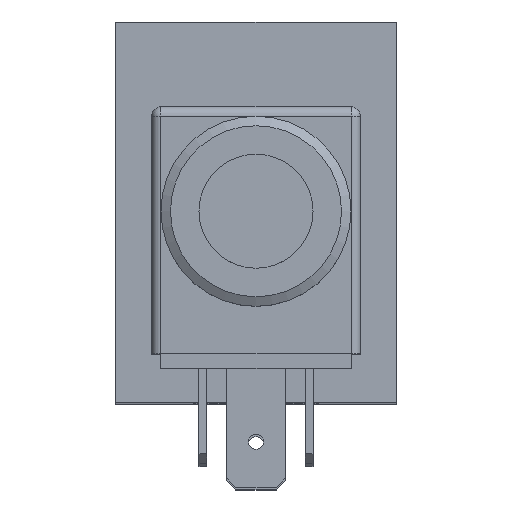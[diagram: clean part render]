
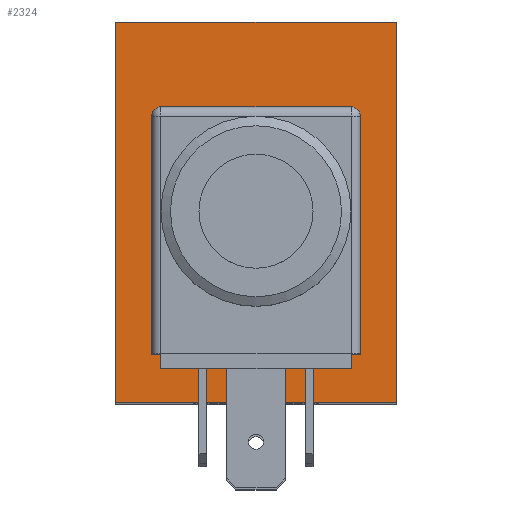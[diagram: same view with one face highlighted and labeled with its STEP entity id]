
A CAD part, top view. The second image highlights one B-rep face of the part: STEP entity #2324.
In plain terms, the highlighted planar face has unit normal (0, 0, 1).
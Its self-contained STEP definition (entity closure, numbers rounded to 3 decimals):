
#31=LINE('',#3536,#202);
#36=LINE('',#3549,#207);
#40=LINE('',#3561,#211);
#44=LINE('',#3573,#215);
#46=LINE('',#3583,#217);
#51=LINE('',#3592,#222);
#55=LINE('',#3600,#226);
#56=LINE('',#3602,#227);
#202=VECTOR('',#2867,15.);
#207=VECTOR('',#2880,15.);
#211=VECTOR('',#2892,15.);
#215=VECTOR('',#2904,15.);
#217=VECTOR('',#2916,40.);
#222=VECTOR('',#2923,29.5);
#226=VECTOR('',#2931,29.5);
#227=VECTOR('',#2934,40.);
#472=FACE_BOUND('',#764,.T.);
#473=FACE_BOUND('',#765,.T.);
#764=EDGE_LOOP('',(#1649,#1650,#1651,#1652,#1653,#1654,#1655,#1656));
#765=EDGE_LOOP('',(#1657,#1658,#1659,#1660));
#959=CIRCLE('',#2519,3.5);
#961=CIRCLE('',#2523,3.5);
#963=CIRCLE('',#2527,3.5);
#965=CIRCLE('',#2531,3.5);
#1068=VERTEX_POINT('',#3533);
#1069=VERTEX_POINT('',#3535);
#1071=VERTEX_POINT('',#3541);
#1073=VERTEX_POINT('',#3547);
#1075=VERTEX_POINT('',#3553);
#1077=VERTEX_POINT('',#3559);
#1079=VERTEX_POINT('',#3565);
#1081=VERTEX_POINT('',#3571);
#1082=VERTEX_POINT('',#3579);
#1084=VERTEX_POINT('',#3582);
#1086=VERTEX_POINT('',#3588);
#1089=VERTEX_POINT('',#3598);
#1278=EDGE_CURVE('',#1069,#1068,#31,.T.);
#1282=EDGE_CURVE('',#1068,#1071,#959,.T.);
#1285=EDGE_CURVE('',#1071,#1073,#36,.T.);
#1288=EDGE_CURVE('',#1073,#1075,#961,.T.);
#1291=EDGE_CURVE('',#1075,#1077,#40,.T.);
#1294=EDGE_CURVE('',#1077,#1079,#963,.T.);
#1297=EDGE_CURVE('',#1079,#1081,#44,.T.);
#1299=EDGE_CURVE('',#1081,#1069,#965,.T.);
#1301=EDGE_CURVE('',#1084,#1082,#46,.T.);
#1306=EDGE_CURVE('',#1086,#1084,#51,.T.);
#1310=EDGE_CURVE('',#1082,#1089,#55,.T.);
#1311=EDGE_CURVE('',#1089,#1086,#56,.T.);
#1649=ORIENTED_EDGE('',*,*,#1278,.T.);
#1650=ORIENTED_EDGE('',*,*,#1282,.T.);
#1651=ORIENTED_EDGE('',*,*,#1285,.T.);
#1652=ORIENTED_EDGE('',*,*,#1288,.T.);
#1653=ORIENTED_EDGE('',*,*,#1291,.T.);
#1654=ORIENTED_EDGE('',*,*,#1294,.T.);
#1655=ORIENTED_EDGE('',*,*,#1297,.T.);
#1656=ORIENTED_EDGE('',*,*,#1299,.T.);
#1657=ORIENTED_EDGE('',*,*,#1311,.T.);
#1658=ORIENTED_EDGE('',*,*,#1306,.T.);
#1659=ORIENTED_EDGE('',*,*,#1301,.T.);
#1660=ORIENTED_EDGE('',*,*,#1310,.T.);
#2104=PLANE('',#2537);
#2324=ADVANCED_FACE('',(#472,#473),#2104,.T.);
#2519=AXIS2_PLACEMENT_3D('',#3543,#2874,#2875);
#2523=AXIS2_PLACEMENT_3D('',#3555,#2886,#2887);
#2527=AXIS2_PLACEMENT_3D('',#3567,#2898,#2899);
#2531=AXIS2_PLACEMENT_3D('',#3576,#2909,#2910);
#2537=AXIS2_PLACEMENT_3D('',#3601,#2932,#2933);
#2867=DIRECTION('',(1.,0.,0.));
#2874=DIRECTION('center_axis',(0.,0.,-1.));
#2875=DIRECTION('ref_axis',(-1.,0.,0.));
#2880=DIRECTION('',(0.,-1.,0.));
#2886=DIRECTION('center_axis',(0.,0.,-1.));
#2887=DIRECTION('ref_axis',(0.,1.,0.));
#2892=DIRECTION('',(-1.,0.,0.));
#2898=DIRECTION('center_axis',(0.,0.,-1.));
#2899=DIRECTION('ref_axis',(1.,0.,0.));
#2904=DIRECTION('',(0.,1.,0.));
#2909=DIRECTION('center_axis',(0.,0.,-1.));
#2910=DIRECTION('ref_axis',(0.,-1.,0.));
#2916=DIRECTION('',(0.,-1.,0.));
#2923=DIRECTION('',(-1.,0.,0.));
#2931=DIRECTION('',(1.,0.,0.));
#2932=DIRECTION('center_axis',(0.,0.,1.));
#2933=DIRECTION('ref_axis',(1.,0.,0.));
#2934=DIRECTION('',(0.,1.,0.));
#3533=CARTESIAN_POINT('',(7.5,11.,61.));
#3535=CARTESIAN_POINT('',(-7.5,11.,61.));
#3536=CARTESIAN_POINT('',(-3.75,11.,61.));
#3541=CARTESIAN_POINT('',(11.,7.5,61.));
#3543=CARTESIAN_POINT('Origin',(7.5,7.5,61.));
#3547=CARTESIAN_POINT('',(11.,-7.5,61.));
#3549=CARTESIAN_POINT('',(11.,-6.25,61.));
#3553=CARTESIAN_POINT('',(7.5,-11.,61.));
#3555=CARTESIAN_POINT('Origin',(7.5,-7.5,61.));
#3559=CARTESIAN_POINT('',(-7.5,-11.,61.));
#3561=CARTESIAN_POINT('',(3.75,-11.,61.));
#3565=CARTESIAN_POINT('',(-11.,-7.5,61.));
#3567=CARTESIAN_POINT('Origin',(-7.5,-7.5,61.));
#3571=CARTESIAN_POINT('',(-11.,7.5,61.));
#3573=CARTESIAN_POINT('',(-11.,-13.75,61.));
#3576=CARTESIAN_POINT('Origin',(-7.5,7.5,61.));
#3579=CARTESIAN_POINT('',(-14.75,-20.,61.));
#3582=CARTESIAN_POINT('',(-14.75,20.,61.));
#3583=CARTESIAN_POINT('',(-14.75,-20.,61.));
#3588=CARTESIAN_POINT('',(14.75,20.,61.));
#3592=CARTESIAN_POINT('',(0.,20.,61.));
#3598=CARTESIAN_POINT('',(14.75,-20.,61.));
#3600=CARTESIAN_POINT('',(0.,-20.,61.));
#3601=CARTESIAN_POINT('Origin',(0.,-20.,61.));
#3602=CARTESIAN_POINT('',(14.75,-20.,61.));
